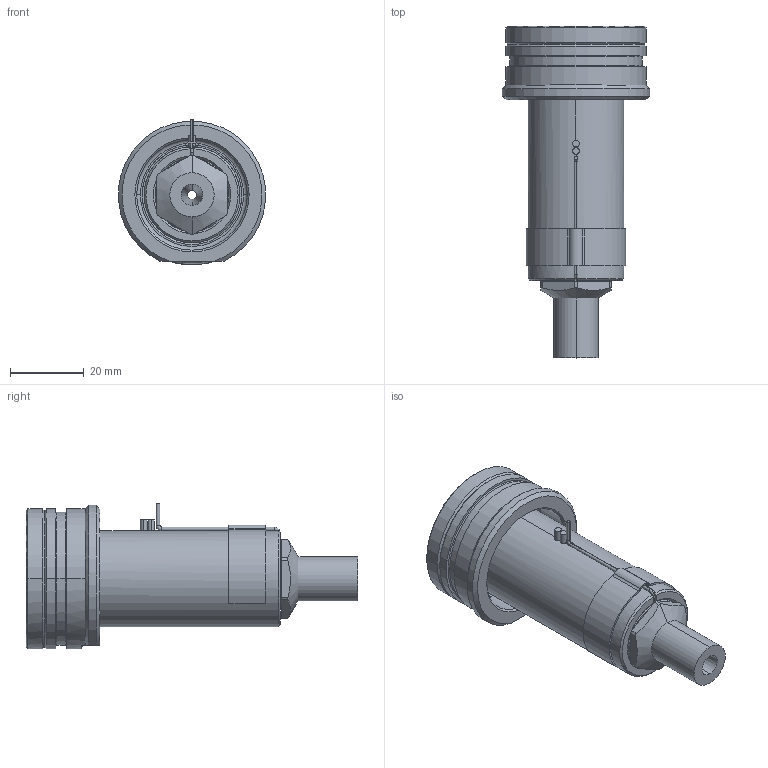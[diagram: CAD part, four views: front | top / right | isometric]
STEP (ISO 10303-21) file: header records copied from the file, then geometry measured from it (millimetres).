
FILE_DESCRIPTION((''),'2;1');
FILE_NAME('EO08_VG-ST_ESG_060_SW','2024-02-19T12:43:33',('sundharh'),(''),'CREO PARAMETRIC BY PTC INC, 2023154','CREO PARAMETRIC BY PTC INC, 2023154','');
FILE_SCHEMA(('CONFIG_CONTROL_DESIGN'));
Length unit declared in the file: millimetre
Products named in the file (1): EO08_VG-ST_ESG_060_SW
Bounding box: 39.88 x 90 x 39.52 mm (x, y, z)
Volume: 45818.2 mm3; surface area: 14783.1 mm2
Topology: 1 solids, 1 shells, 174 faces, 438 edges, 269 vertices
Faces by surface type: cylinder 64, plane 44, cone 37, torus 19, bspline 8, sphere 2
Entity records: 6461 total; most frequent: CARTESIAN_POINT 2197, DIRECTION 941, ORIENTED_EDGE 868, EDGE_CURVE 434, AXIS2_PLACEMENT_3D 390, VERTEX_POINT 269, CIRCLE 224, EDGE_LOOP 189
